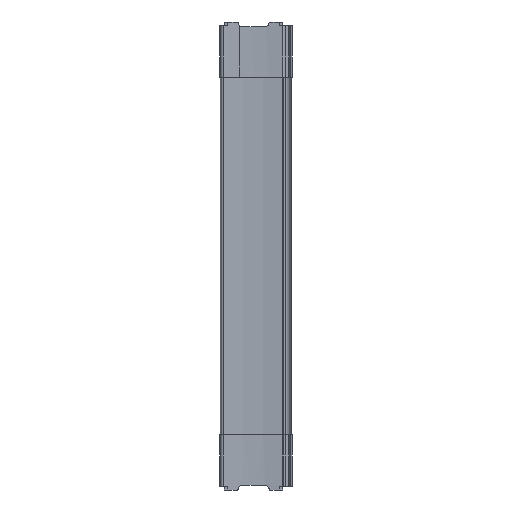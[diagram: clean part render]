
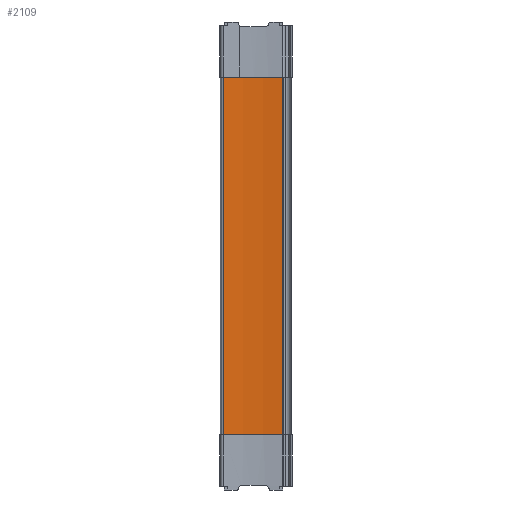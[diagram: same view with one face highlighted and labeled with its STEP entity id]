
A CAD part, left-side view. The second image highlights one B-rep face of the part: STEP entity #2109.
In plain terms, the highlighted cylindrical face has radius 250 mm (diameter 500 mm), a partial arc.
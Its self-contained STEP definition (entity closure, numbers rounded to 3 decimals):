
#329 = CYLINDRICAL_SURFACE ( 'NONE', #2246, 250. ) ;
#332 = FACE_OUTER_BOUND ( 'NONE', #3153, .T. ) ;
#690 = VERTEX_POINT ( 'NONE', #1028 ) ;
#843 = CARTESIAN_POINT ( 'NONE',  ( -5.747, 63.571, 166. ) ) ;
#915 = VERTEX_POINT ( 'NONE', #843 ) ;
#928 = VERTEX_POINT ( 'NONE', #1008 ) ;
#931 = VERTEX_POINT ( 'NONE', #1011 ) ;
#1008 = CARTESIAN_POINT ( 'NONE',  ( -5.747, 63.571, -166. ) ) ;
#1011 = CARTESIAN_POINT ( 'NONE',  ( -8.643, 8.331, -166. ) ) ;
#1028 = CARTESIAN_POINT ( 'NONE',  ( -8.643, 8.331, 166. ) ) ;
#1448 = DIRECTION ( 'NONE',  ( -1., 0., 0. ) ) ;
#1449 = DIRECTION ( 'NONE',  ( 0., 0., -1. ) ) ;
#1450 = CARTESIAN_POINT ( 'NONE',  ( -255.319, 48.963, 172. ) ) ;
#1781 = LINE ( 'NONE', #4060, #1782 ) ;
#1782 = VECTOR ( 'NONE', #4061, 1000. ) ;
#1791 = CIRCLE ( 'NONE', #2386, 250. ) ;
#1824 = LINE ( 'NONE', #4133, #1828 ) ;
#1828 = VECTOR ( 'NONE', #4143, 1000. ) ;
#1869 = CIRCLE ( 'NONE', #2416, 250. ) ;
#2109 = ADVANCED_FACE ( 'NONE', ( #332 ), #329, .F. ) ;
#2246 = AXIS2_PLACEMENT_3D ( 'NONE', #1450, #1449, #1448 ) ;
#2386 = AXIS2_PLACEMENT_3D ( 'NONE', #4064, #4066, #4067 ) ;
#2416 = AXIS2_PLACEMENT_3D ( 'NONE', #4215, #4220, #4221 ) ;
#3153 = EDGE_LOOP ( 'NONE', ( #3295, #3294, #3293, #3292 ) ) ;
#3292 = ORIENTED_EDGE ( 'NONE', *, *, #3544, .T. ) ;
#3293 = ORIENTED_EDGE ( 'NONE', *, *, #3517, .F. ) ;
#3294 = ORIENTED_EDGE ( 'NONE', *, *, #3514, .F. ) ;
#3295 = ORIENTED_EDGE ( 'NONE', *, *, #3572, .F. ) ;
#3514 = EDGE_CURVE ( 'NONE', #690, #931, #1781, .T. ) ;
#3517 = EDGE_CURVE ( 'NONE', #915, #690, #1791, .T. ) ;
#3544 = EDGE_CURVE ( 'NONE', #915, #928, #1824, .T. ) ;
#3572 = EDGE_CURVE ( 'NONE', #931, #928, #1869, .T. ) ;
#4060 = CARTESIAN_POINT ( 'NONE',  ( -8.643, 8.331, 172. ) ) ;
#4061 = DIRECTION ( 'NONE',  ( 0., 0., -1. ) ) ;
#4064 = CARTESIAN_POINT ( 'NONE',  ( -255.319, 48.963, 166. ) ) ;
#4066 = DIRECTION ( 'NONE',  ( 0., 0., -1. ) ) ;
#4067 = DIRECTION ( 'NONE',  ( 1., 0., 0. ) ) ;
#4133 = CARTESIAN_POINT ( 'NONE',  ( -5.747, 63.571, 172. ) ) ;
#4143 = DIRECTION ( 'NONE',  ( 0., 0., -1. ) ) ;
#4215 = CARTESIAN_POINT ( 'NONE',  ( -255.319, 48.963, -166. ) ) ;
#4220 = DIRECTION ( 'NONE',  ( 0., 0., 1. ) ) ;
#4221 = DIRECTION ( 'NONE',  ( -1., 0., 0. ) ) ;
